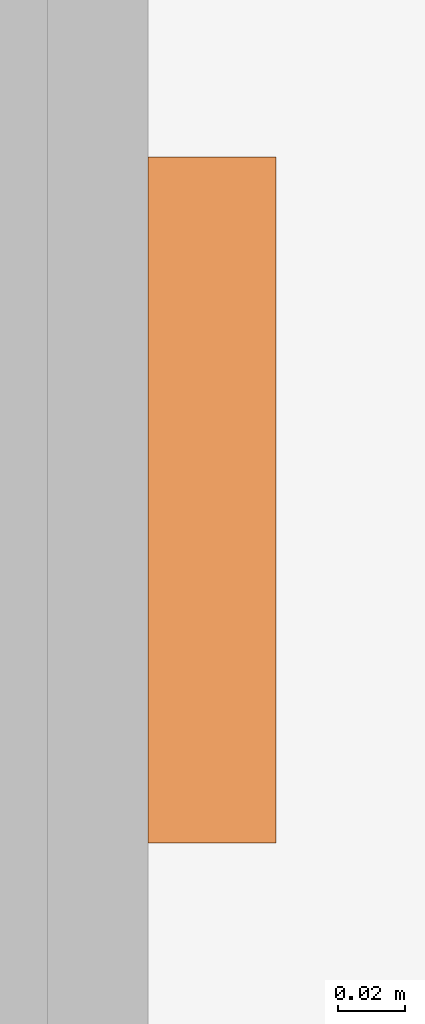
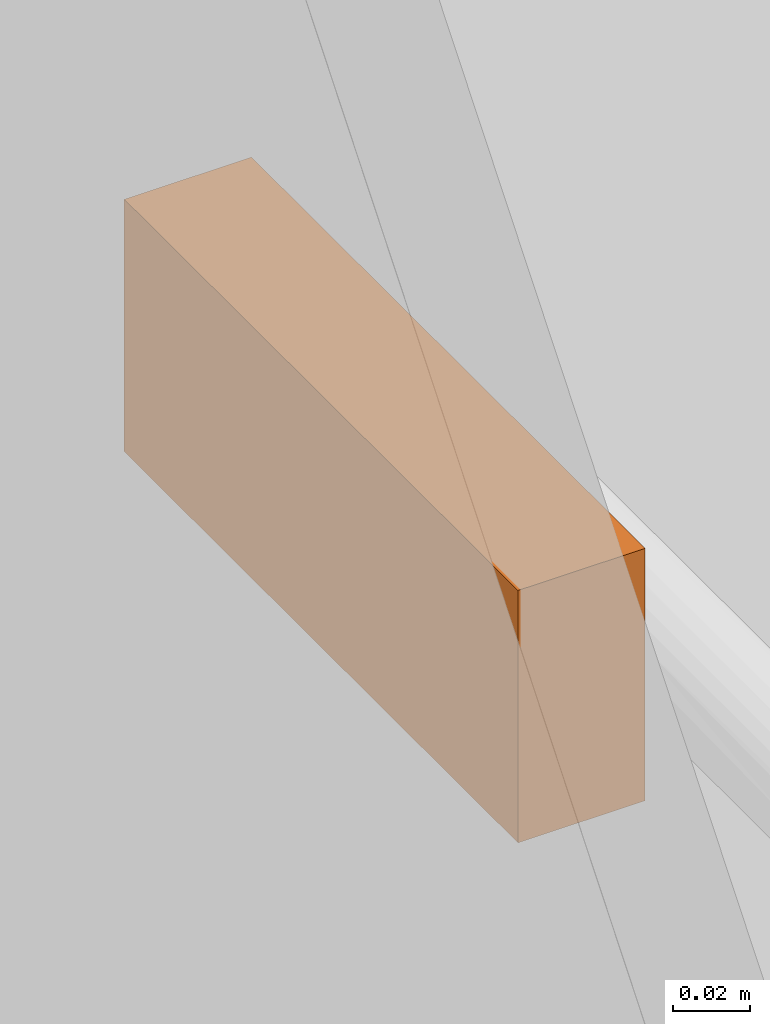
# One storey, part 76 of 76: 1 proxy.
"""IFC2X3 building model written with IfcOpenShell, lengths in millimetres."""

import ifcopenshell
import ifcopenshell.guid

model = None  # the IFC model being written
_history = None  # IfcOwnerHistory: only IFC2X3 demands one
_inside = {}  # id of a spatial element -> (the spatial element, [elements in it])
_under = {}  # id of a project, library or spatial element -> (it, [spatial elements below it])
_declared = {}  # id of a project -> (the project, [libraries it declares])
_typed = {}  # id of a type object -> (the type object, [elements of that type])
_made_of = {}  # id of a material, layer set ... -> (it, [elements and type objects made of it])


def new_model(schema):
    """Start an empty IFC model of exactly this schema.

    Asked for "IFC4X3", IfcOpenShell would pick the latest addendum, in which some entities
    have other attributes; the version numbers below select the first issue.
    IFC2X3 requires an IfcOwnerHistory on every rooted entity: one is made here for all.
    """
    global model, _history
    if schema == "IFC4X3":
        model = ifcopenshell.file(schema_version=(4, 3, 0, 0))
    else:
        model = ifcopenshell.file(schema=schema)
    _inside.clear()
    _under.clear()
    _declared.clear()
    _typed.clear()
    _made_of.clear()
    _history = None
    if model.schema == "IFC2X3":
        org = make("IfcOrganization", Name="unknown")
        user = make(
            "IfcPersonAndOrganization",
            ThePerson=make("IfcPerson", FamilyName="unknown"),
            TheOrganization=org,
        )
        app = make(
            "IfcApplication",
            ApplicationDeveloper=org,
            Version="unknown",
            ApplicationFullName="unknown",
            ApplicationIdentifier="unknown",
        )
        _history = make(
            "IfcOwnerHistory",
            OwningUser=user,
            OwningApplication=app,
            ChangeAction="ADDED",
            CreationDate=0,
        )
    return model


def make(cls, **values):
    """One entity of the class cls with the attributes given. An attribute that is None is left unset."""
    return model.create_entity(
        cls, **{name: value for name, value in values.items() if value is not None}
    )


def entity(cls, *values):
    """Any entity or typed value of the class cls, its attributes in the order of the schema. None: left unset."""
    e = model.create_entity(cls)
    for i, value in enumerate(values):
        if value is not None:
            e[i] = value
    return e


def rooted(cls, **values):
    """An entity with a GlobalId (a new one), such as an element, a storey or a relation."""
    return make(cls, GlobalId=ifcopenshell.guid.new(), OwnerHistory=_history, **values)


def si_unit(unit_type, name, prefix=None):
    """IfcSIUnit, for example si_unit("LENGTHUNIT", "METRE", prefix="MILLI")."""
    return make("IfcSIUnit", UnitType=unit_type, Prefix=prefix, Name=name)


def converted_unit(unit_type, name, factor, base, dimensions=None, offset=None):
    """IfcConversionBasedUnit, such as the inch: factor (a typed value) times the base unit."""
    return make(
        "IfcConversionBasedUnit"
        if offset is None
        else "IfcConversionBasedUnitWithOffset",
        ConversionOffset=offset,
        Dimensions=None
        if dimensions is None
        else entity("IfcDimensionalExponents", *dimensions),
        UnitType=unit_type,
        Name=name,
        ConversionFactor=make(
            "IfcMeasureWithUnit", ValueComponent=factor, UnitComponent=base
        ),
    )


def derived_unit(unit_type, elements):
    """IfcDerivedUnit: a product of units, each with its exponent."""
    return make(
        "IfcDerivedUnit",
        Elements=[
            make("IfcDerivedUnitElement", Unit=unit, Exponent=power)
            for unit, power in elements
        ],
        UnitType=unit_type,
    )


def assignment(units):
    """IfcUnitAssignment: the units of a project."""
    return None if units is None else make("IfcUnitAssignment", Units=units)


def point(xyz):
    """IfcCartesianPoint."""
    return None if xyz is None else make("IfcCartesianPoint", Coordinates=xyz)


def direction(xyz):
    """IfcDirection."""
    return None if xyz is None else make("IfcDirection", DirectionRatios=xyz)


def frame(location, z_axis=None, x_axis=None):
    """IfcAxis2Placement3D, a coordinate frame: its origin and axes. An axis left out is left unset."""
    return make(
        "IfcAxis2Placement3D",
        Location=point(location),
        Axis=direction(z_axis),
        RefDirection=direction(x_axis),
    )


def frame_2d(location, x_axis=None):
    """IfcAxis2Placement2D, a coordinate frame in the plane: its origin and x axis."""
    return make(
        "IfcAxis2Placement2D", Location=point(location), RefDirection=direction(x_axis)
    )


def origin():
    """The frame at (0, 0, 0) with its axes left unset."""
    return frame((0.0, 0.0, 0.0))


def place(relative_to, where):
    """IfcLocalPlacement: puts the frame where relative to a parent placement (None: the world)."""
    return make(
        "IfcLocalPlacement", PlacementRelTo=relative_to, RelativePlacement=where
    )


def context(
    kind, dimensions, precision=None, world=None, true_north=None, identifier=None
):
    """IfcGeometricRepresentationContext, for example the 3D "Model" context."""
    return make(
        "IfcGeometricRepresentationContext",
        ContextIdentifier=identifier,
        ContextType=kind,
        CoordinateSpaceDimension=dimensions,
        Precision=precision,
        WorldCoordinateSystem=world,
        TrueNorth=true_north,
    )


def subcontext(parent, identifier, kind, view, scale=None):
    """IfcGeometricRepresentationSubContext, for example "Body" below "Model"."""
    return make(
        "IfcGeometricRepresentationSubContext",
        ContextIdentifier=identifier,
        ContextType=kind,
        ParentContext=parent,
        TargetScale=scale,
        TargetView=view,
    )


def project(units=None, contexts=None):
    """IfcProject with its units and contexts."""
    return rooted(
        "IfcProject",
        Name="project",
        RepresentationContexts=contexts,
        UnitsInContext=assignment(units),
    )


def spatial(cls, under=None, at=None, **own):
    """A site, building, storey or space (cls), placed at a placement, below another one or the project."""
    s = rooted(cls, ObjectPlacement=at, **own)
    if under is not None:
        _under.setdefault(under.id(), (under, []))[1].append(s)
    return s


def profile(cls, at=None, kind="AREA", **sizes):
    """A parametric profile (cls). Its sizes go by their IFC names, for example OverallWidth=200.0."""
    return make(cls, ProfileType=kind, Position=at, **sizes)


def rectangle(**sizes):
    """IfcRectangleProfileDef."""
    return profile("IfcRectangleProfileDef", **sizes)


def extrude(swept, where, along, depth):
    """IfcExtrudedAreaSolid: the profile swept, set in the frame where, extruded along a direction by depth."""
    return make(
        "IfcExtrudedAreaSolid",
        SweptArea=swept,
        Position=where,
        ExtrudedDirection=direction(along),
        Depth=depth,
    )


def shape(context_of_items, identifier, shape_type, items):
    """IfcShapeRepresentation: the items that make up one representation, for example the "Body"."""
    return make(
        "IfcShapeRepresentation",
        ContextOfItems=context_of_items,
        RepresentationIdentifier=identifier,
        RepresentationType=shape_type,
        Items=items,
    )


def source(mapping_origin, context_of_items, identifier, shape_type, items):
    """IfcRepresentationMap: a shape defined once, which mapped items show again and again."""
    return make(
        "IfcRepresentationMap",
        MappingOrigin=mapping_origin,
        MappedRepresentation=shape(context_of_items, identifier, shape_type, items),
    )


def transform(
    local_origin,
    x_axis=None,
    y_axis=None,
    z_axis=None,
    scale=None,
    scale2=None,
    scale3=None,
    uniform=True,
):
    """IfcCartesianTransformationOperator3D, or its non-uniform kind. x_axis, y_axis, z_axis: its Axis1, 2, 3."""
    if uniform:
        return make(
            "IfcCartesianTransformationOperator3D",
            Axis1=direction(x_axis),
            Axis2=direction(y_axis),
            LocalOrigin=point(local_origin),
            Scale=scale,
            Axis3=direction(z_axis),
        )
    return make(
        "IfcCartesianTransformationOperator3DnonUniform",
        Axis1=direction(x_axis),
        Axis2=direction(y_axis),
        LocalOrigin=point(local_origin),
        Scale=scale,
        Axis3=direction(z_axis),
        Scale2=scale2,
        Scale3=scale3,
    )


def mapped(mapping_source, mapping_target):
    """IfcMappedItem: shows the shape of a source again, moved by a transform."""
    return make(
        "IfcMappedItem", MappingSource=mapping_source, MappingTarget=mapping_target
    )


def material(Name=None, Category=None):
    """IfcMaterial."""
    return make("IfcMaterial", Name=Name, Category=Category)


def made_of(thing, what):
    """Note that an element or type object is made of a material, layer set ...; save() writes the relation."""
    if what is not None:
        _made_of.setdefault(what.id(), (what, []))[1].append(thing)
    return thing


def type_object(cls, material=None, **own):
    """A type object (cls), such as IfcWallType, which elements share."""
    return made_of(rooted(cls, **own), material)


def type_shapes(of_type, sources):
    """Give a type object the sources (RepresentationMaps) that its elements show as mapped items."""
    of_type.RepresentationMaps = sources


def element(
    cls,
    number,
    at=None,
    inside=None,
    cuts=None,
    type_object=None,
    material=None,
    context=None,
    identifier="Body",
    shape_type=None,
    held_by="IfcProductDefinitionShape",
    body=None,
    shapes=None,
    **own,
):
    """One element of the class cls, such as IfcWall. Its Tag is "e" and its number.

    at: its placement. inside: the storey or other place that contains it. cuts: it is an
    opening in that element (IfcRelVoidsElement). A single representation is given by context,
    identifier, shape_type and body (its items); several are given by shapes. held_by: the class
    of the entity that holds the representations. save() writes the other relations.
    """
    e = rooted(cls, Tag="e%d" % number, ObjectPlacement=at, **own)
    if body is not None:
        shapes = [shape(context, identifier, shape_type, body)]
    if shapes is not None:
        e.Representation = make(held_by, Representations=shapes)
    if inside is not None:
        _inside.setdefault(inside.id(), (inside, []))[1].append(e)
    if cuts is not None:
        rooted(
            "IfcRelVoidsElement", RelatingBuildingElement=cuts, RelatedOpeningElement=e
        )
    if type_object is not None:
        _typed.setdefault(type_object.id(), (type_object, []))[1].append(e)
    return made_of(e, material)


def aggregate(whole, parts):
    """IfcRelAggregates: a whole, such as a stair, and the parts it consists of."""
    return rooted("IfcRelAggregates", RelatingObject=whole, RelatedObjects=parts)


def save(model, path):
    """Write the relations noted so far, then the file.

    IfcRelAggregates (storeys below a building ...), IfcRelContainedInSpatialStructure (elements
    in a storey), IfcRelDefinesByType, IfcRelAssociatesMaterial and IfcRelDeclares: one each for
    every whole, place, type object, material and project.
    """
    for whole, parts in _under.values():
        aggregate(whole, parts)
    for where, things in _inside.values():
        rooted(
            "IfcRelContainedInSpatialStructure",
            RelatedElements=things,
            RelatingStructure=where,
        )
    for kind, things in _typed.values():
        rooted("IfcRelDefinesByType", RelatedObjects=things, RelatingType=kind)
    for what, things in _made_of.values():
        rooted("IfcRelAssociatesMaterial", RelatedObjects=things, RelatingMaterial=what)
    for by, libraries in _declared.values():
        rooted("IfcRelDeclares", RelatingContext=by, RelatedDefinitions=libraries)
    model.write(path)


model = new_model("IFC2X3")

# Units and contexts
model_context = context("Model", 3, precision=0.01, world=origin(), true_north=direction((6.123031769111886e-17, 1.0)))
body_context = subcontext(model_context, "Body", "Model", "MODEL_VIEW")
ifc_project = project(units=[si_unit("LENGTHUNIT", "METRE", prefix="MILLI"), si_unit("AREAUNIT", "SQUARE_METRE"), si_unit("VOLUMEUNIT", "CUBIC_METRE"), converted_unit("PLANEANGLEUNIT", "DEGREE", entity("IfcRatioMeasure", 0.017453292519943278), si_unit("PLANEANGLEUNIT", "RADIAN"), dimensions=[0, 0, 0, 0, 0, 0, 0]), si_unit("MASSUNIT", "GRAM", prefix="KILO"), derived_unit("MASSDENSITYUNIT", [(si_unit("MASSUNIT", "GRAM", prefix="KILO"), 1), (si_unit("LENGTHUNIT", "METRE"), -3)]), derived_unit("MOMENTOFINERTIAUNIT", [(si_unit("LENGTHUNIT", "METRE"), 4)]), si_unit("TIMEUNIT", "SECOND"), si_unit("FREQUENCYUNIT", "HERTZ"), si_unit("THERMODYNAMICTEMPERATUREUNIT", "DEGREE_CELSIUS"), derived_unit("THERMALTRANSMITTANCEUNIT", [(si_unit("MASSUNIT", "GRAM", prefix="KILO"), 1), (si_unit("THERMODYNAMICTEMPERATUREUNIT", "KELVIN"), -1), (si_unit("TIMEUNIT", "SECOND"), -3)]), derived_unit("VOLUMETRICFLOWRATEUNIT", [(si_unit("LENGTHUNIT", "METRE"), 3), (si_unit("TIMEUNIT", "SECOND"), -1)]), derived_unit("MASSFLOWRATEUNIT", [(si_unit("MASSUNIT", "GRAM", prefix="KILO"), 1), (si_unit("TIMEUNIT", "SECOND"), -1)]), derived_unit("ROTATIONALFREQUENCYUNIT", [(si_unit("TIMEUNIT", "SECOND"), -1)]), si_unit("ELECTRICCURRENTUNIT", "AMPERE"), si_unit("ELECTRICVOLTAGEUNIT", "VOLT"), si_unit("POWERUNIT", "WATT"), si_unit("FORCEUNIT", "NEWTON", prefix="KILO"), si_unit("ILLUMINANCEUNIT", "LUX"), si_unit("LUMINOUSFLUXUNIT", "LUMEN"), si_unit("LUMINOUSINTENSITYUNIT", "CANDELA"), derived_unit("USERDEFINED", [(si_unit("MASSUNIT", "GRAM", prefix="KILO"), -1), (si_unit("LENGTHUNIT", "METRE"), -2), (si_unit("TIMEUNIT", "SECOND"), 3), (si_unit("LUMINOUSFLUXUNIT", "LUMEN"), 1)]), derived_unit("SOUNDPOWERUNIT", [(si_unit("MASSUNIT", "GRAM", prefix="KILO"), 1), (si_unit("LENGTHUNIT", "METRE"), 2), (si_unit("TIMEUNIT", "SECOND"), -3)]), derived_unit("SOUNDPRESSUREUNIT", [(si_unit("MASSUNIT", "GRAM", prefix="KILO"), 1), (si_unit("LENGTHUNIT", "METRE"), -1), (si_unit("TIMEUNIT", "SECOND"), -2)]), derived_unit("LINEARVELOCITYUNIT", [(si_unit("LENGTHUNIT", "METRE"), 1), (si_unit("TIMEUNIT", "SECOND"), -1)]), si_unit("PRESSUREUNIT", "PASCAL"), derived_unit("USERDEFINED", [(si_unit("LENGTHUNIT", "METRE"), -2), (si_unit("MASSUNIT", "GRAM", prefix="KILO"), 1), (si_unit("TIMEUNIT", "SECOND"), -2)]), derived_unit("LINEARFORCEUNIT", [(si_unit("MASSUNIT", "GRAM", prefix="KILO"), 1), (si_unit("LENGTHUNIT", "METRE"), 1), (si_unit("TIMEUNIT", "SECOND"), -2), (si_unit("LENGTHUNIT", "METRE"), -1)]), derived_unit("PLANARFORCEUNIT", [(si_unit("MASSUNIT", "GRAM", prefix="KILO"), 1), (si_unit("LENGTHUNIT", "METRE"), 1), (si_unit("TIMEUNIT", "SECOND"), -2), (si_unit("LENGTHUNIT", "METRE"), -2)])], contexts=[model_context])

# Site, building, storey, space
site_placement = place(None, frame((-14167.972527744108, -657.2125860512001, 0.0)))
site = spatial("IfcSite", under=ifc_project, at=site_placement, Name="Default", CompositionType="ELEMENT")
building_placement = place(site_placement, origin())
building = spatial("IfcBuilding", under=site, at=building_placement, Name="Sample Building", CompositionType="ELEMENT")
storey_placement = place(building_placement, frame((0.0, 0.0, 9300.0)))
storey = spatial("IfcBuildingStorey", under=building, at=storey_placement, Name="지상 3층", CompositionType="ELEMENT", Elevation=9300.000000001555)
space_placement = place(storey_placement, origin())
space = spatial("IfcSpace", under=storey, at=space_placement, Name="202", CompositionType="ELEMENT", InteriorOrExteriorSpace="INTERNAL")

# Proxy
ifc_material = material(Name="KBIMS-복합 패널")
building_element_proxy_type = type_object("IfcBuildingElementProxyType", Name="비상용벨2:비상용벨", PredefinedType="NOTDEFINED", material=ifc_material)
shared_shape = source(origin(), body_context, "Body", "SweptSolid", [
    extrude(rectangle(XDim=204.38472874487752, YDim=38.12692769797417, at=frame_2d((0.0, -5.417888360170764e-13), x_axis=(1.0, 0.0))), frame((56270.66937734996, 6228.98364767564, 10119.918025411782), z_axis=(0.0, 0.0, 1.0), x_axis=(-1.0, 0.0, 0.0)), (0.0, 0.0, 1.0), 79.9535849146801),
])
type_shapes(building_element_proxy_type, [shared_shape])
proxy_placement = place(space_placement, frame((26888.052307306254, 80809.51297417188, -9300.0), z_axis=(0.0, 0.0, 1.0), x_axis=(0.0, -1.0, 0.0)))
element("IfcBuildingElementProxy", 1, at=proxy_placement, inside=space, type_object=building_element_proxy_type, material=ifc_material, Name="비상용벨2:비상용벨", ObjectType="비상용벨2:비상용벨", context=body_context, shape_type="MappedRepresentation", body=[
    mapped(shared_shape, transform((0.0, 0.0, 0.0), scale=1.0)),
])

save(model, "model.ifc")
